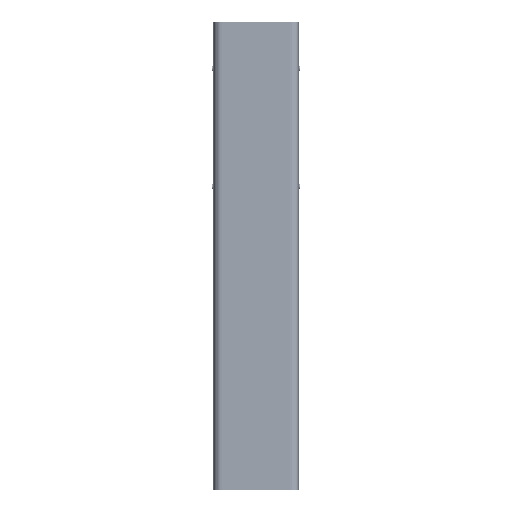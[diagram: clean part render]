
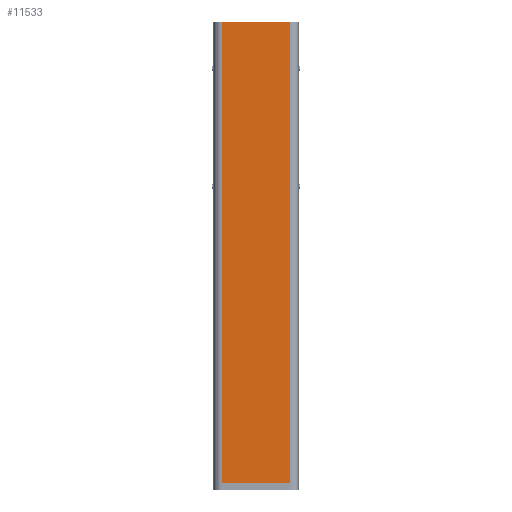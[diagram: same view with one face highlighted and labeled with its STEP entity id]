
A CAD part, top view. The second image highlights one B-rep face of the part: STEP entity #11533.
In plain terms, the highlighted planar face has unit normal (0, 0, 1).
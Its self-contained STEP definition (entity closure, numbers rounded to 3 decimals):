
#2739=DIRECTION('',(0.,1.,0.));
#2740=VECTOR('',#2739,1092.);
#2741=CARTESIAN_POINT('',(81.,0.,0.));
#2742=LINE('',#2741,#2740);
#4133=DIRECTION('',(1.,0.,0.));
#4134=VECTOR('',#4133,162.);
#4135=CARTESIAN_POINT('',(-81.,0.,0.));
#4136=LINE('',#4135,#4134);
#4147=DIRECTION('',(1.,0.,0.));
#4148=VECTOR('',#4147,162.);
#4149=CARTESIAN_POINT('',(-81.,1092.,0.));
#4150=LINE('',#4149,#4148);
#4161=DIRECTION('',(0.,-1.,0.));
#4162=VECTOR('',#4161,1092.);
#4163=CARTESIAN_POINT('',(-81.,1092.,0.));
#4164=LINE('',#4163,#4162);
#8451=CARTESIAN_POINT('',(81.,1092.,0.));
#8452=VERTEX_POINT('',#8451);
#8455=CARTESIAN_POINT('',(81.,0.,0.));
#8456=VERTEX_POINT('',#8455);
#8643=CARTESIAN_POINT('',(-81.,0.,0.));
#8644=VERTEX_POINT('',#8643);
#8645=CARTESIAN_POINT('',(-81.,1092.,0.));
#8646=VERTEX_POINT('',#8645);
#11520=CARTESIAN_POINT('',(-81.,0.,0.));
#11521=DIRECTION('',(0.,0.,1.));
#11522=DIRECTION('',(1.,0.,0.));
#11523=AXIS2_PLACEMENT_3D('',#11520,#11521,#11522);
#11524=PLANE('',#11523);
#11525=ORIENTED_EDGE('',*,*,#11511,.F.);
#11527=ORIENTED_EDGE('',*,*,#11526,.F.);
#11529=ORIENTED_EDGE('',*,*,#11528,.T.);
#11530=ORIENTED_EDGE('',*,*,#10296,.F.);
#11531=EDGE_LOOP('',(#11525,#11527,#11529,#11530));
#11532=FACE_OUTER_BOUND('',#11531,.F.);
#10296=EDGE_CURVE('',#8456,#8452,#2742,.T.);
#11511=EDGE_CURVE('',#8644,#8456,#4136,.T.);
#11526=EDGE_CURVE('',#8646,#8644,#4164,.T.);
#11528=EDGE_CURVE('',#8646,#8452,#4150,.T.);
#11533=ADVANCED_FACE('',(#11532),#11524,.T.);
